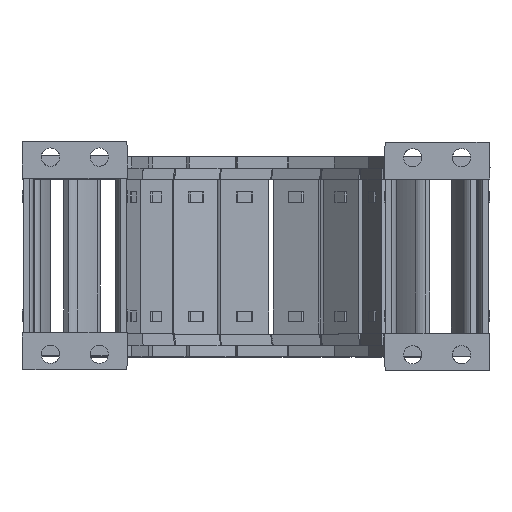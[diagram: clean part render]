
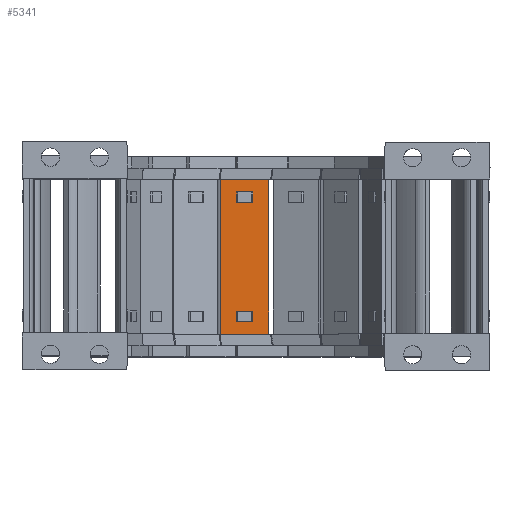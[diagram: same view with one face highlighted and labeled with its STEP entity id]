
A CAD part, top view. The second image highlights one B-rep face of the part: STEP entity #5341.
In plain terms, the highlighted planar face has unit normal (0.035, 0, 0.999).
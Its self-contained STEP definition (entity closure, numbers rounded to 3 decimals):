
#293=FACE_BOUND('',#15295,.T.);
#294=FACE_BOUND('',#15296,.T.);
#295=FACE_BOUND('',#15297,.T.);
#5341=ADVANCED_FACE('',(#293,#294,#295),#8414,.F.);
#8414=PLANE('',#76721);
#15295=EDGE_LOOP('',(#41093,#41094,#41095,#41096));
#15296=EDGE_LOOP('',(#41097,#41098,#41099,#41100));
#15297=EDGE_LOOP('',(#41101,#41102,#41103,#41104));
#21407=LINE('',#117715,#27585);
#21409=LINE('',#117719,#27587);
#21411=LINE('',#117723,#27589);
#21412=LINE('',#117725,#27590);
#21419=LINE('',#117740,#27597);
#21421=LINE('',#117744,#27599);
#21423=LINE('',#117748,#27601);
#21424=LINE('',#117750,#27602);
#21425=LINE('',#117752,#27603);
#21426=LINE('',#117755,#27604);
#21427=LINE('',#117757,#27605);
#21428=LINE('',#117759,#27606);
#27585=VECTOR('',#90400,1.);
#27587=VECTOR('',#90404,1.);
#27589=VECTOR('',#90408,1.);
#27590=VECTOR('',#90411,1.);
#27597=VECTOR('',#90422,1.);
#27599=VECTOR('',#90426,1.);
#27601=VECTOR('',#90430,1.);
#27602=VECTOR('',#90433,1.);
#27603=VECTOR('',#90436,1.);
#27604=VECTOR('',#90437,1.);
#27605=VECTOR('',#90438,1.);
#27606=VECTOR('',#90439,1.);
#41093=ORIENTED_EDGE('',*,*,#65015,.F.);
#41094=ORIENTED_EDGE('',*,*,#65013,.F.);
#41095=ORIENTED_EDGE('',*,*,#65011,.T.);
#41096=ORIENTED_EDGE('',*,*,#65016,.T.);
#41097=ORIENTED_EDGE('',*,*,#65027,.F.);
#41098=ORIENTED_EDGE('',*,*,#65025,.T.);
#41099=ORIENTED_EDGE('',*,*,#65023,.T.);
#41100=ORIENTED_EDGE('',*,*,#65028,.F.);
#41101=ORIENTED_EDGE('',*,*,#65029,.F.);
#41102=ORIENTED_EDGE('',*,*,#65030,.F.);
#41103=ORIENTED_EDGE('',*,*,#65031,.T.);
#41104=ORIENTED_EDGE('',*,*,#65032,.T.);
#56103=VERTEX_POINT('',#117712);
#56104=VERTEX_POINT('',#117714);
#56105=VERTEX_POINT('',#117718);
#56106=VERTEX_POINT('',#117722);
#56111=VERTEX_POINT('',#117737);
#56112=VERTEX_POINT('',#117739);
#56113=VERTEX_POINT('',#117743);
#56114=VERTEX_POINT('',#117747);
#56115=VERTEX_POINT('',#117753);
#56116=VERTEX_POINT('',#117754);
#56117=VERTEX_POINT('',#117756);
#56118=VERTEX_POINT('',#117758);
#65011=EDGE_CURVE('',#56103,#56104,#21407,.T.);
#65013=EDGE_CURVE('',#56103,#56105,#21409,.T.);
#65015=EDGE_CURVE('',#56105,#56106,#21411,.T.);
#65016=EDGE_CURVE('',#56104,#56106,#21412,.T.);
#65023=EDGE_CURVE('',#56111,#56112,#21419,.T.);
#65025=EDGE_CURVE('',#56113,#56111,#21421,.T.);
#65027=EDGE_CURVE('',#56113,#56114,#21423,.T.);
#65028=EDGE_CURVE('',#56114,#56112,#21424,.T.);
#65029=EDGE_CURVE('',#56115,#56116,#21425,.T.);
#65030=EDGE_CURVE('',#56117,#56115,#21426,.T.);
#65031=EDGE_CURVE('',#56117,#56118,#21427,.T.);
#65032=EDGE_CURVE('',#56118,#56116,#21428,.T.);
#76721=AXIS2_PLACEMENT_3D('',#117760,#90440,#90441);
#90400=DIRECTION('',(0.,1.,0.));
#90404=DIRECTION('',(0.999,0.,-0.035));
#90408=DIRECTION('',(0.,1.,0.));
#90411=DIRECTION('',(0.999,0.,-0.035));
#90422=DIRECTION('',(0.,-1.,0.));
#90426=DIRECTION('',(0.999,0.,-0.035));
#90430=DIRECTION('',(0.,-1.,0.));
#90433=DIRECTION('',(0.999,0.,-0.035));
#90436=DIRECTION('',(0.,1.,0.));
#90437=DIRECTION('',(-0.999,0.,0.035));
#90438=DIRECTION('',(0.,1.,0.));
#90439=DIRECTION('',(-0.999,0.,0.035));
#90440=DIRECTION('',(-0.035,0.,-0.999));
#90441=DIRECTION('',(-0.999,0.,0.035));
#117712=CARTESIAN_POINT('',(-65.615,-46.5,-62.316));
#117714=CARTESIAN_POINT('',(-65.615,-43.,-62.316));
#117715=CARTESIAN_POINT('',(-65.615,6.74,-62.316));
#117718=CARTESIAN_POINT('',(-60.267,-46.5,-62.503));
#117719=CARTESIAN_POINT('',(-65.615,-46.5,-62.316));
#117722=CARTESIAN_POINT('',(-60.267,-43.,-62.503));
#117723=CARTESIAN_POINT('',(-60.267,-25.,-62.503));
#117725=CARTESIAN_POINT('',(-65.615,-43.,-62.316));
#117737=CARTESIAN_POINT('',(-60.267,-4.,-62.503));
#117739=CARTESIAN_POINT('',(-60.267,-7.5,-62.503));
#117740=CARTESIAN_POINT('',(-60.267,-4.,-62.503));
#117743=CARTESIAN_POINT('',(-65.615,-4.,-62.316));
#117744=CARTESIAN_POINT('',(-65.615,-4.,-62.316));
#117747=CARTESIAN_POINT('',(-65.615,-7.5,-62.316));
#117748=CARTESIAN_POINT('',(-65.615,-4.,-62.316));
#117750=CARTESIAN_POINT('',(-65.615,-7.5,-62.316));
#117752=CARTESIAN_POINT('',(-70.836,-25.26,-62.134));
#117753=CARTESIAN_POINT('',(-70.836,-50.5,-62.134));
#117754=CARTESIAN_POINT('',(-70.836,0.,-62.134));
#117755=CARTESIAN_POINT('',(-73.083,-50.5,-62.056));
#117756=CARTESIAN_POINT('',(-55.046,-50.5,-62.685));
#117757=CARTESIAN_POINT('',(-55.046,-25.5,-62.685));
#117758=CARTESIAN_POINT('',(-55.046,0.,-62.685));
#117759=CARTESIAN_POINT('',(-55.046,0.,-62.685));
#117760=CARTESIAN_POINT('',(-52.887,31.74,-62.761));
